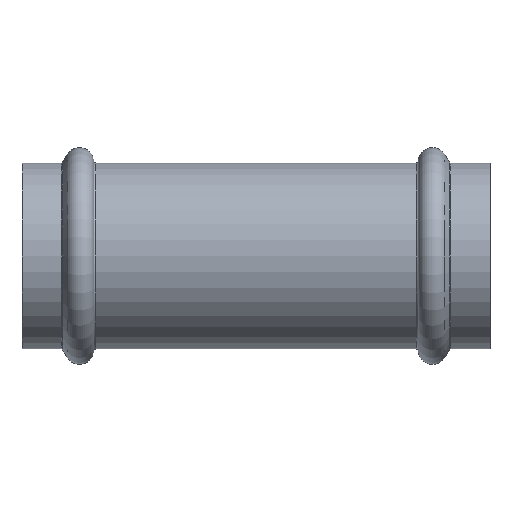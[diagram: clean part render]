
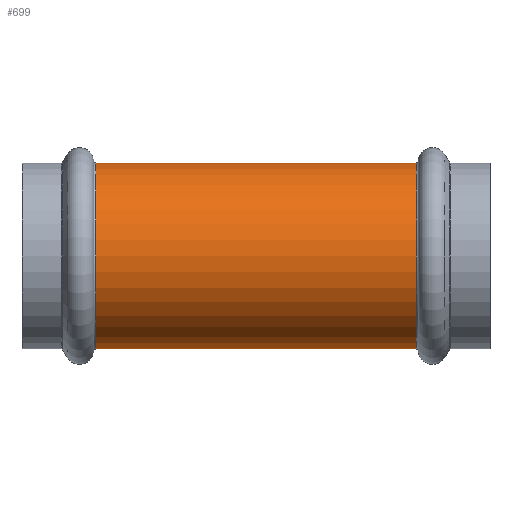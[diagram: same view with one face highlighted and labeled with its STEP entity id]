
A CAD part, front view. The second image highlights one B-rep face of the part: STEP entity #699.
In plain terms, the highlighted cylindrical face has radius 22.65 mm (diameter 45.3 mm), a full revolution.
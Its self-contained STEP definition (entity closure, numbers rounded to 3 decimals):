
#657=CARTESIAN_POINT('',(-17.992,22.65,0.0));
#658=VERTEX_POINT('',#657);
#659=CARTESIAN_POINT('',(-17.992,0.,0.0));
#660=DIRECTION('',(1.0,0.0,0.0));
#661=DIRECTION('',(0.0,-1.0,0.0));
#662=AXIS2_PLACEMENT_3D('',#659,#660,#661);
#663=CIRCLE('',#662,22.65);
#664=EDGE_CURVE('',#658,#658,#663,.T.);
#680=CARTESIAN_POINT('',(-57.0,0.,0.0));
#681=DIRECTION('',(1.0,0.,0.0));
#682=DIRECTION('',(0.0,1.0,0.0));
#683=AXIS2_PLACEMENT_3D('',#680,#681,#682);
#684=CYLINDRICAL_SURFACE('',#683,22.65);
#685=CARTESIAN_POINT('',(-96.008,22.65,0.));
#686=VERTEX_POINT('',#685);
#687=CARTESIAN_POINT('',(-96.008,0.,0.0));
#688=DIRECTION('',(-1.0,0.0,0.0));
#689=DIRECTION('',(0.0,-1.0,0.0));
#690=AXIS2_PLACEMENT_3D('',#687,#688,#689);
#691=CIRCLE('',#690,22.65);
#692=EDGE_CURVE('',#686,#686,#691,.T.);
#693=ORIENTED_EDGE('',*,*,#692,.F.);
#694=EDGE_LOOP('',(#693));
#695=FACE_OUTER_BOUND('',#694,.T.);
#696=ORIENTED_EDGE('',*,*,#664,.F.);
#697=EDGE_LOOP('',(#696));
#698=FACE_BOUND('',#697,.T.);
#699=ADVANCED_FACE('',(#695,#698),#684,.T.);
